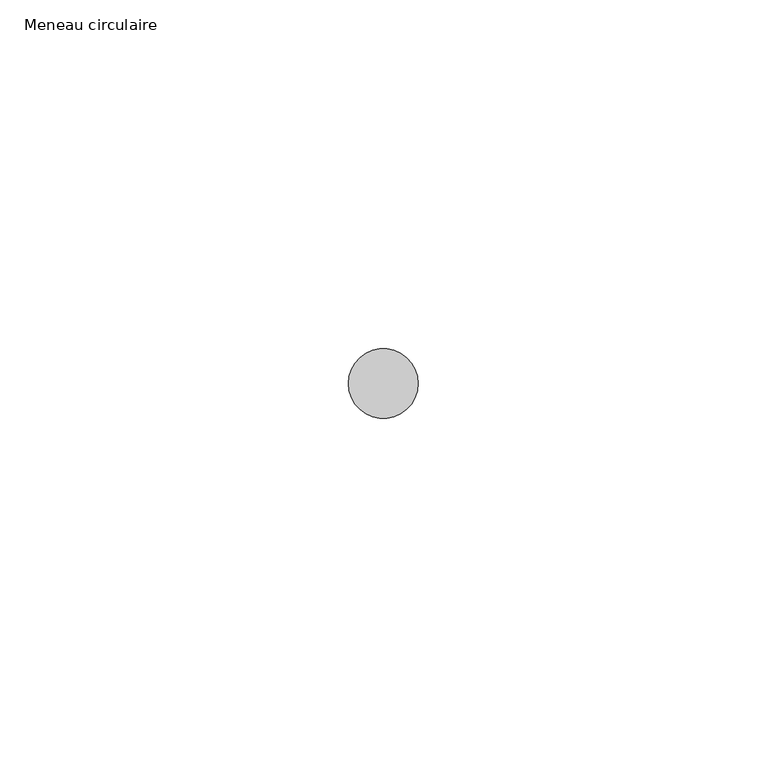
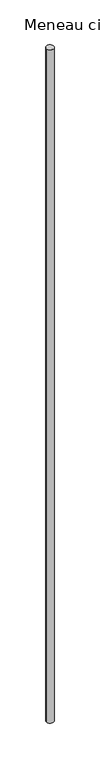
"""IFC4 building model written with IfcOpenShell, lengths in millimetres: member geometry, Meneau circulaire : Diamètre 1cm."""

from ifc_helpers import new_model, si_unit, point, frame, origin, origin_2d, place, context, project, spatial, circle_curve, trimmed, segment, composite_curve, outline, extrude, source, transform, mapped, element, save


def meneau_circulaire_54e10e48(model_context):
    return source(origin(), model_context, "Body", "SweptSolid", [
        extrude(outline(composite_curve([segment(trimmed(circle_curve(origin_2d(), 5.0), [point((5.0, 0.0))], [point((-5.0, 0.0))], False, "CARTESIAN"), True, "CONTINUOUS"), segment(trimmed(circle_curve(origin_2d(), 5.0), [point((-5.0, 0.0))], [point((5.0, 0.0))], False, "CARTESIAN"), True, "CONTINUOUS")], self_intersect=False)), frame((0.0, 0.0, -936.1556083), z_axis=(0.0, 0.0, 1.0), x_axis=(1.0, 0.0, 0.0)), (0.0, 0.0, 1.0), 936.1556083),
    ])


if __name__ == "__main__":
    model = new_model("IFC4")
    model_context = context("Model", 3, world=origin())
    ifc_project = project(units=[si_unit("LENGTHUNIT", "METRE", prefix="MILLI")], contexts=[model_context])
    site = spatial("IfcSite", under=ifc_project)
    building = spatial("IfcBuilding", under=site)
    placement = place(None, origin())
    meneau_circulaire_shape = meneau_circulaire_54e10e48(model_context)
    element("IfcMember", 1, ObjectType="Meneau circulaire : Diamètre 1cm", at=placement, inside=building, context=model_context, shape_type="MappedRepresentation", body=[
        mapped(meneau_circulaire_shape, transform((0.0, 0.0, 0.0), x_axis=(1.0, 0.0, 0.0), y_axis=(0.0, 1.0, 0.0), z_axis=(0.0, 0.0, 1.0))),
    ])
    save(model, "model.ifc")
